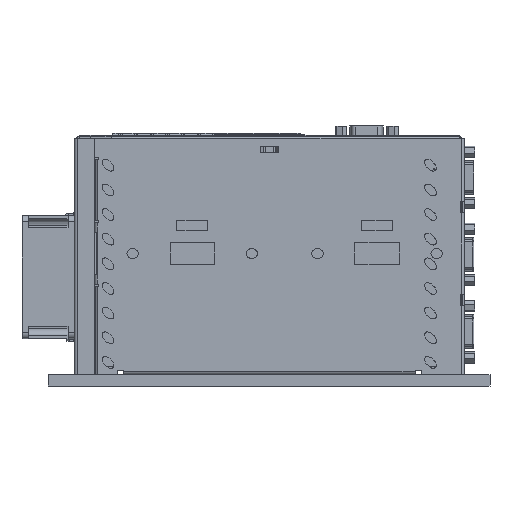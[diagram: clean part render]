
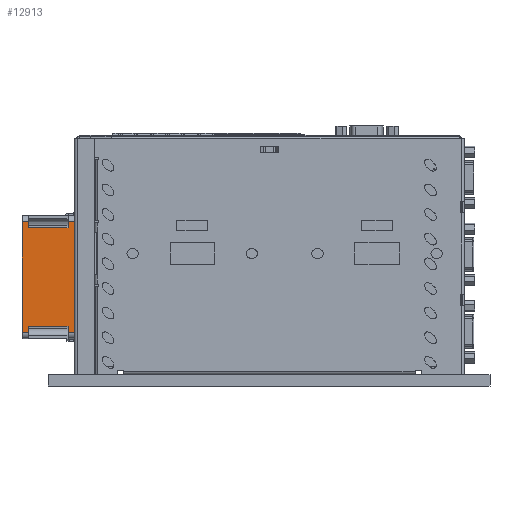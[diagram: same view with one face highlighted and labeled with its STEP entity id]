
A CAD part, left-side view. The second image highlights one B-rep face of the part: STEP entity #12913.
In plain terms, the highlighted planar face has unit normal (-1, 0, 0).
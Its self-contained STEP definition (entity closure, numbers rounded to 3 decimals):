
#5559 = DIRECTION ( 'NONE',  ( 0., 0., -1. ) ) ;
#5560 = VECTOR ( 'NONE', #5559, 1000. ) ;
#5561 = CARTESIAN_POINT ( 'NONE',  ( -30., -24., -9.7 ) ) ;
#5562 = LINE ( 'NONE', #5561, #5560 ) ;
#5622 = CARTESIAN_POINT ( 'NONE',  ( -30., -24., -9.7 ) ) ;
#9723 = ORIENTED_EDGE ( 'NONE', *, *, #186990, .T. ) ;
#10767 = ORIENTED_EDGE ( 'NONE', *, *, #90586, .T. ) ;
#12913 = ADVANCED_FACE ( 'NONE', ( #19933 ), #19929, .T. ) ;
#13329 = VERTEX_POINT ( 'NONE', #19919 ) ;
#19919 = CARTESIAN_POINT ( 'NONE',  ( -30., 27., -9.7 ) ) ;
#19922 = DIRECTION ( 'NONE',  ( 0., 0., 1. ) ) ;
#19925 = DIRECTION ( 'NONE',  ( -1., 0., 0. ) ) ;
#19927 = CARTESIAN_POINT ( 'NONE',  ( -30., -30., -12.7 ) ) ;
#19928 = AXIS2_PLACEMENT_3D ( 'NONE', #19927, #19925, #19922 ) ;
#19929 = PLANE ( 'NONE',  #19928 ) ;
#19933 = FACE_OUTER_BOUND ( 'NONE', #173961, .T. ) ;
#24888 = DIRECTION ( 'NONE',  ( 0., -1., 0. ) ) ;
#24891 = VECTOR ( 'NONE', #24888, 1000. ) ;
#24894 = CARTESIAN_POINT ( 'NONE',  ( -30., -24., -9.7 ) ) ;
#24895 = LINE ( 'NONE', #24894, #24891 ) ;
#25134 = CARTESIAN_POINT ( 'NONE',  ( -30., 24., -9.7 ) ) ;
#31279 = CARTESIAN_POINT ( 'NONE',  ( -30., 24., -9.7 ) ) ;
#31280 = LINE ( 'NONE', #31279, #31414 ) ;
#31412 = DIRECTION ( 'NONE',  ( 0., 1., 0. ) ) ;
#31414 = VECTOR ( 'NONE', #31412, 1000. ) ;
#31673 = CARTESIAN_POINT ( 'NONE',  ( -30., 24., 9.7 ) ) ;
#38380 = DIRECTION ( 'NONE',  ( 0., 1., 0. ) ) ;
#38382 = VECTOR ( 'NONE', #38380, 1000. ) ;
#38385 = CARTESIAN_POINT ( 'NONE',  ( -30., 24., 9.7 ) ) ;
#38386 = LINE ( 'NONE', #38385, #38382 ) ;
#54147 = DIRECTION ( 'NONE',  ( 0., 0., 1. ) ) ;
#54148 = VECTOR ( 'NONE', #54147, 1000. ) ;
#54149 = CARTESIAN_POINT ( 'NONE',  ( -30., -27., -12.7 ) ) ;
#54151 = LINE ( 'NONE', #54149, #54148 ) ;
#68846 = CARTESIAN_POINT ( 'NONE',  ( -30., -27., 12.7 ) ) ;
#68890 = DIRECTION ( 'NONE',  ( 0., 0., 1. ) ) ;
#68891 = VECTOR ( 'NONE', #68890, 1000. ) ;
#68892 = CARTESIAN_POINT ( 'NONE',  ( -30., -27., -12.7 ) ) ;
#68893 = LINE ( 'NONE', #68892, #68891 ) ;
#69052 = DIRECTION ( 'NONE',  ( 0., -1., 0. ) ) ;
#69053 = VECTOR ( 'NONE', #69052, 1000. ) ;
#69054 = CARTESIAN_POINT ( 'NONE',  ( -30., -30., 12.7 ) ) ;
#69056 = LINE ( 'NONE', #69054, #69053 ) ;
#69193 = CARTESIAN_POINT ( 'NONE',  ( -30., 27., 12.7 ) ) ;
#69251 = CARTESIAN_POINT ( 'NONE',  ( -30., -27., -9.7 ) ) ;
#69470 = CARTESIAN_POINT ( 'NONE',  ( -30., 27., 9.7 ) ) ;
#69604 = DIRECTION ( 'NONE',  ( 0., 0., -1. ) ) ;
#69606 = VECTOR ( 'NONE', #69604, 1000. ) ;
#69607 = CARTESIAN_POINT ( 'NONE',  ( -30., 27., -12.7 ) ) ;
#69609 = LINE ( 'NONE', #69607, #69606 ) ;
#69710 = DIRECTION ( 'NONE',  ( 0., 0., -1. ) ) ;
#69712 = VECTOR ( 'NONE', #69710, 1000. ) ;
#69713 = CARTESIAN_POINT ( 'NONE',  ( -30., 27., -12.7 ) ) ;
#69714 = LINE ( 'NONE', #69713, #69712 ) ;
#69717 = CARTESIAN_POINT ( 'NONE',  ( -30., 27., -12.7 ) ) ;
#69928 = DIRECTION ( 'NONE',  ( 0., -1., 0. ) ) ;
#69929 = VECTOR ( 'NONE', #69928, 1000. ) ;
#69930 = CARTESIAN_POINT ( 'NONE',  ( -30., -24., 9.7 ) ) ;
#69932 = LINE ( 'NONE', #69930, #69929 ) ;
#69967 = CARTESIAN_POINT ( 'NONE',  ( -30., -27., 9.7 ) ) ;
#70461 = DIRECTION ( 'NONE',  ( 0., -1., 0. ) ) ;
#70463 = VECTOR ( 'NONE', #70461, 1000. ) ;
#70466 = CARTESIAN_POINT ( 'NONE',  ( -30., -30., -12.7 ) ) ;
#70468 = LINE ( 'NONE', #70466, #70463 ) ;
#71163 = CARTESIAN_POINT ( 'NONE',  ( -30., -27., -12.7 ) ) ;
#87279 = EDGE_CURVE ( 'NONE', #167243, #190724, #24895, .T. ) ;
#88153 = VERTEX_POINT ( 'NONE', #25134 ) ;
#90586 = EDGE_CURVE ( 'NONE', #88153, #13329, #31280, .T. ) ;
#91952 = ORIENTED_EDGE ( 'NONE', *, *, #142920, .F. ) ;
#92108 = EDGE_CURVE ( 'NONE', #175366, #192194, #38386, .T. ) ;
#141729 = VERTEX_POINT ( 'NONE', #144358 ) ;
#142920 = EDGE_CURVE ( 'NONE', #88153, #175366, #146934, .T. ) ;
#144358 = CARTESIAN_POINT ( 'NONE',  ( -30., -24., 9.7 ) ) ;
#146930 = DIRECTION ( 'NONE',  ( 0., 0., 1. ) ) ;
#146931 = VECTOR ( 'NONE', #146930, 1000. ) ;
#146932 = CARTESIAN_POINT ( 'NONE',  ( -30., 24., 9.7 ) ) ;
#146934 = LINE ( 'NONE', #146932, #146931 ) ;
#167138 = EDGE_CURVE ( 'NONE', #141729, #167243, #5562, .T. ) ;
#167243 = VERTEX_POINT ( 'NONE', #5622 ) ;
#173961 = EDGE_LOOP ( 'NONE', ( #10767, #186583, #188004, #182951, #188998, #194685, #194084, #9723, #188348, #189088, #201663, #91952 ) ) ;
#175366 = VERTEX_POINT ( 'NONE', #31673 ) ;
#182852 = EDGE_CURVE ( 'NONE', #203683, #190724, #54151, .T. ) ;
#182951 = ORIENTED_EDGE ( 'NONE', *, *, #182852, .T. ) ;
#186583 = ORIENTED_EDGE ( 'NONE', *, *, #193801, .T. ) ;
#186604 = VERTEX_POINT ( 'NONE', #68846 ) ;
#186990 = EDGE_CURVE ( 'NONE', #195427, #186604, #68893, .T. ) ;
#188004 = ORIENTED_EDGE ( 'NONE', *, *, #198778, .T. ) ;
#188348 = ORIENTED_EDGE ( 'NONE', *, *, #188384, .F. ) ;
#188384 = EDGE_CURVE ( 'NONE', #188843, #186604, #69056, .T. ) ;
#188843 = VERTEX_POINT ( 'NONE', #69193 ) ;
#188998 = ORIENTED_EDGE ( 'NONE', *, *, #87279, .F. ) ;
#189088 = ORIENTED_EDGE ( 'NONE', *, *, #192696, .T. ) ;
#190724 = VERTEX_POINT ( 'NONE', #69251 ) ;
#192194 = VERTEX_POINT ( 'NONE', #69470 ) ;
#192696 = EDGE_CURVE ( 'NONE', #188843, #192194, #69609, .T. ) ;
#193484 = VERTEX_POINT ( 'NONE', #69717 ) ;
#193801 = EDGE_CURVE ( 'NONE', #13329, #193484, #69714, .T. ) ;
#194084 = ORIENTED_EDGE ( 'NONE', *, *, #195901, .T. ) ;
#194685 = ORIENTED_EDGE ( 'NONE', *, *, #167138, .F. ) ;
#195427 = VERTEX_POINT ( 'NONE', #69967 ) ;
#195901 = EDGE_CURVE ( 'NONE', #141729, #195427, #69932, .T. ) ;
#198778 = EDGE_CURVE ( 'NONE', #193484, #203683, #70468, .T. ) ;
#201663 = ORIENTED_EDGE ( 'NONE', *, *, #92108, .F. ) ;
#203683 = VERTEX_POINT ( 'NONE', #71163 ) ;
